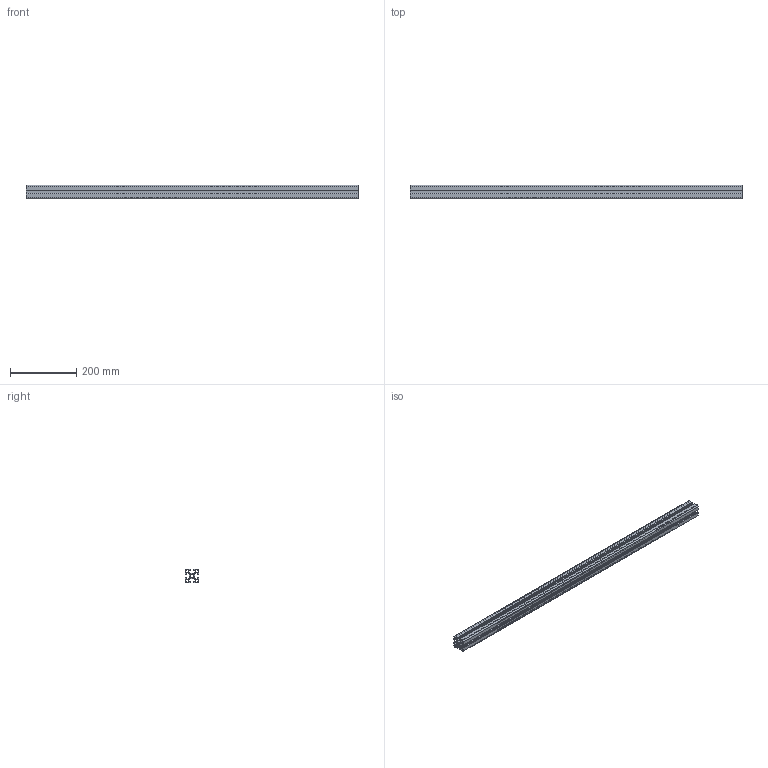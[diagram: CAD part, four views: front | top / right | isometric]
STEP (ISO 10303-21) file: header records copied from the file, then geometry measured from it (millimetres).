
FILE_DESCRIPTION (( 'STEP AP214' ), '1' );
FILE_NAME ('1.0129 40X40 6m musta 1000mm.STEP', '2026-03-13T09:13:08', ( '' ), ( '' ), 'SwSTEP 2.0', 'SolidWorks 2025', '' );
FILE_SCHEMA (( 'AUTOMOTIVE_DESIGN' ));
Length unit declared in the file: millimetre
Products named in the file (1): 1.0129 40X40 6m musta 1000mm
Bounding box: 1000 x 40 x 40 mm (x, y, z)
Volume: 643845.8 mm3; surface area: 462159.2 mm2
Topology: 1 solids, 1 shells, 181 faces, 537 edges, 358 vertices
Faces by surface type: cylinder 91, plane 90
Entity records: 6156 total; most frequent: DIRECTION 1083, CARTESIAN_POINT 1077, ORIENTED_EDGE 1074, EDGE_CURVE 537, AXIS2_PLACEMENT_3D 364, VERTEX_POINT 358, VECTOR 355, LINE 355
